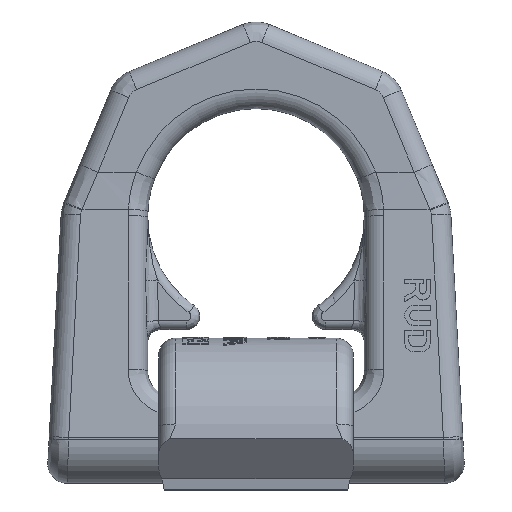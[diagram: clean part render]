
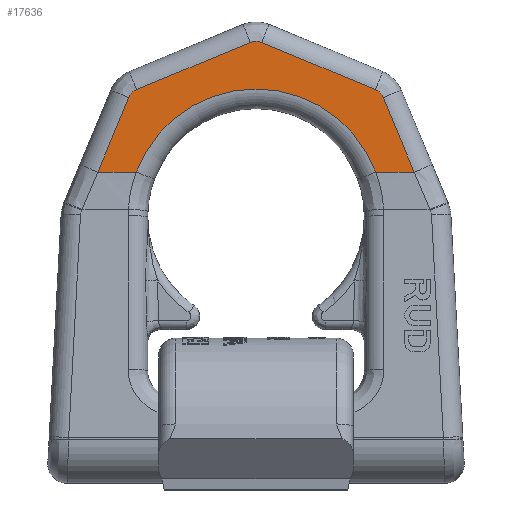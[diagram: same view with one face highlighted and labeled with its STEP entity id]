
A CAD part, top view. The second image highlights one B-rep face of the part: STEP entity #17636.
In plain terms, the highlighted planar face has unit normal (0, 0, 1).
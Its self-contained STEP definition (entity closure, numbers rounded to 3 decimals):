
#9541=CARTESIAN_POINT('',(-55.272,20.64,13.));
#9568=CARTESIAN_POINT('',(-73.01,20.64,13.));
#12539=DIRECTION('',(-1.,0.,0.));
#12540=VECTOR('',#12539,17.738);
#12541=CARTESIAN_POINT('',(-55.272,20.64,
13.));
#12542=LINE('30727',#12541,#12540);
#12546=DIRECTION('',(-0.383,-0.924,0.));
#12547=VECTOR('',#12546,37.27);
#12548=CARTESIAN_POINT('',(-58.747,55.073,13.));
#12549=LINE('30263',#12548,#12547);
#12553=CARTESIAN_POINT('',(-52.475,52.475,13.));
#12554=DIRECTION('',(0.,0.,1.));
#12555=DIRECTION('',(-0.383,0.924,0.));
#12556=AXIS2_PLACEMENT_3D('',#12553,#12554,#12555);
#12561=DIRECTION('',(-0.924,-0.383,0.));
#12562=VECTOR('',#12561,56.798);
#12563=CARTESIAN_POINT('',(-2.598,80.483,13.));
#12564=LINE('30267',#12563,#12562);
#12568=DIRECTION('',(0.924,-0.383,0.));
#12569=VECTOR('',#12568,56.798);
#12570=CARTESIAN_POINT('',(2.598,80.483,13.));
#12571=LINE('30337',#12570,#12569);
#12575=CARTESIAN_POINT('',(52.475,52.475,13.));
#12576=DIRECTION('',(0.,0.,-1.));
#12577=DIRECTION('',(0.383,0.924,0.));
#12578=AXIS2_PLACEMENT_3D('',#12575,#12576,#12577);
#12583=DIRECTION('',(0.383,-0.924,0.));
#12584=VECTOR('',#12583,37.27);
#12585=CARTESIAN_POINT('',(58.747,55.073,13.));
#12586=LINE('30333',#12585,#12584);
#12590=DIRECTION('',(1.,0.,0.));
#12591=VECTOR('',#12590,17.738);
#12592=CARTESIAN_POINT('',(55.272,20.64,13.));
#12593=LINE('30916',#12592,#12591);
#12605=CARTESIAN_POINT('',(0.,0.,13.));
#12606=DIRECTION('',(0.,0.,-1.));
#12607=DIRECTION('',(-0.937,0.35,0.));
#12608=AXIS2_PLACEMENT_3D('',#12605,#12606,#12607);
#12621=CARTESIAN_POINT('',(55.272,20.64,13.));
#12640=CARTESIAN_POINT('',(73.01,20.64,13.));
#12691=CARTESIAN_POINT('',(0.,74.211,13.));
#12692=DIRECTION('',(0.,0.,1.));
#12693=DIRECTION('',(0.383,0.924,0.));
#12694=AXIS2_PLACEMENT_3D('',#12691,#12692,#12693);
#14298=VERTEX_POINT('',#9568);
#14300=CARTESIAN_POINT('',(-58.747,55.073,13.));
#14301=VERTEX_POINT('',#14300);
#14304=CARTESIAN_POINT('',(-55.073,58.747,13.));
#14305=VERTEX_POINT('',#14304);
#14308=CARTESIAN_POINT('',(-2.598,80.483,13.));
#14309=VERTEX_POINT('',#14308);
#14332=VERTEX_POINT('',#12640);
#14334=CARTESIAN_POINT('',(58.747,55.073,13.));
#14335=VERTEX_POINT('',#14334);
#14338=CARTESIAN_POINT('',(55.073,58.747,13.));
#14339=VERTEX_POINT('',#14338);
#14342=CARTESIAN_POINT('',(2.598,80.483,13.));
#14343=VERTEX_POINT('',#14342);
#14424=VERTEX_POINT('',#9541);
#14447=VERTEX_POINT('',#12621);
#17611=CARTESIAN_POINT('',(0.,20.64,13.));
#17612=DIRECTION('',(0.,0.,1.));
#17613=DIRECTION('',(0.,1.,0.));
#17614=AXIS2_PLACEMENT_3D('',#17611,#17612,#17613);
#17615=PLANE('16928',#17614);
#17617=ORIENTED_EDGE('30984',*,*,#17616,.F.);
#17618=ORIENTED_EDGE('30727',*,*,#14525,.T.);
#17619=ORIENTED_EDGE('30263',*,*,#17602,.F.);
#17621=ORIENTED_EDGE('30265',*,*,#17620,.F.);
#17623=ORIENTED_EDGE('30267',*,*,#17622,.F.);
#17625=ORIENTED_EDGE('30393',*,*,#17624,.F.);
#17627=ORIENTED_EDGE('30337',*,*,#17626,.T.);
#17629=ORIENTED_EDGE('30335',*,*,#17628,.T.);
#17631=ORIENTED_EDGE('30333',*,*,#17630,.T.);
#17633=ORIENTED_EDGE('30916',*,*,#17632,.F.);
#17634=EDGE_LOOP('16928',(#17617,#17618,#17619,#17621,#17623,#17625,#17627,
#17629,#17631,#17633));
#17635=FACE_OUTER_BOUND('16928',#17634,.F.);
#12557=CIRCLE('30265',#12556,6.789);
#12579=CIRCLE('30335',#12578,6.789);
#12609=CIRCLE('30984',#12608,59.);
#12695=CIRCLE('30393',#12694,6.789);
#14525=EDGE_CURVE('30727',#14424,#14298,#12542,.T.);
#17602=EDGE_CURVE('30263',#14301,#14298,#12549,.T.);
#17616=EDGE_CURVE('30984',#14424,#14447,#12609,.T.);
#17620=EDGE_CURVE('30265',#14305,#14301,#12557,.T.);
#17622=EDGE_CURVE('30267',#14309,#14305,#12564,.T.);
#17624=EDGE_CURVE('30393',#14343,#14309,#12695,.T.);
#17626=EDGE_CURVE('30337',#14343,#14339,#12571,.T.);
#17628=EDGE_CURVE('30335',#14339,#14335,#12579,.T.);
#17630=EDGE_CURVE('30333',#14335,#14332,#12586,.T.);
#17632=EDGE_CURVE('30916',#14447,#14332,#12593,.T.);
#17636=ADVANCED_FACE('16928',(#17635),#17615,.T.);
